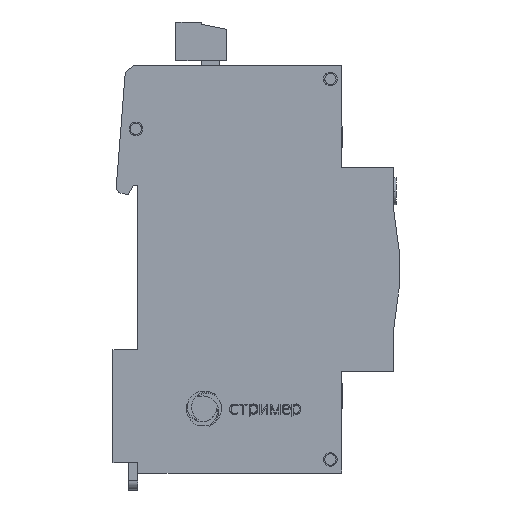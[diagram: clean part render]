
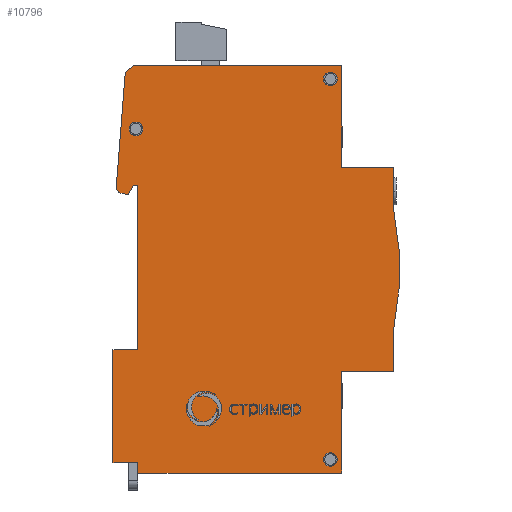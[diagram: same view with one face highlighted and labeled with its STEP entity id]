
A CAD part, front view. The second image highlights one B-rep face of the part: STEP entity #10796.
In plain terms, the highlighted planar face has unit normal (0, -1, 0).
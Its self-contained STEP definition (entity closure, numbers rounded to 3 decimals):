
#9196=CARTESIAN_POINT('',(-14.5,-13.5,-42.75));
#9197=VERTEX_POINT('',#9196);
#9204=CARTESIAN_POINT('',(-20.,-13.5,-42.75));
#9205=VERTEX_POINT('',#9204);
#9206=CARTESIAN_POINT('',(-20.,-13.5,-42.75));
#9207=DIRECTION('',(1.,0.,-0.));
#9208=VECTOR('',#9207,5.5);
#9209=LINE('',#9206,#9208);
#9210=EDGE_CURVE('',#9205,#9197,#9209,.T.);
#9414=CARTESIAN_POINT('',(-14.5,-13.5,-45.));
#9415=VERTEX_POINT('',#9414);
#9416=CARTESIAN_POINT('',(30.5,-13.5,-45.));
#9417=VERTEX_POINT('',#9416);
#9418=CARTESIAN_POINT('',(-14.5,-13.5,-45.));
#9419=DIRECTION('',(1.,0.,-0.));
#9420=VECTOR('',#9419,45.);
#9421=LINE('',#9418,#9420);
#9422=EDGE_CURVE('',#9415,#9417,#9421,.T.);
#9541=CARTESIAN_POINT('',(-14.5,-13.5,-17.75));
#9542=VERTEX_POINT('',#9541);
#9549=CARTESIAN_POINT('',(-14.5,-13.5,18.5));
#9550=VERTEX_POINT('',#9549);
#9551=CARTESIAN_POINT('',(-14.5,-13.5,18.5));
#9552=DIRECTION('',(0.,0.,-1.));
#9553=VECTOR('',#9552,36.25);
#9554=LINE('',#9551,#9553);
#9555=EDGE_CURVE('',#9550,#9542,#9554,.T.);
#9572=CARTESIAN_POINT('',(-14.5,-13.5,-42.75));
#9573=DIRECTION('',(0.,0.,-1.));
#9574=VECTOR('',#9573,2.25);
#9575=LINE('',#9572,#9574);
#9576=EDGE_CURVE('',#9197,#9415,#9575,.T.);
#9597=CARTESIAN_POINT('',(-17.29,-13.5,43.498));
#9598=VERTEX_POINT('',#9597);
#9605=CARTESIAN_POINT('',(-15.5,-13.5,45.));
#9606=VERTEX_POINT('',#9605);
#9607=CARTESIAN_POINT('',(-15.5,-13.5,45.));
#9608=DIRECTION('',(-0.766,0.,-0.643));
#9609=VECTOR('',#9608,2.337);
#9610=LINE('',#9607,#9609);
#9611=EDGE_CURVE('',#9606,#9598,#9610,.T.);
#9635=CARTESIAN_POINT('',(-19.273,-13.5,18.306));
#9636=VERTEX_POINT('',#9635);
#9643=CARTESIAN_POINT('',(-17.29,-13.5,43.498));
#9644=DIRECTION('',(-0.078,0.,-0.997));
#9645=VECTOR('',#9644,25.27);
#9646=LINE('',#9643,#9645);
#9647=EDGE_CURVE('',#9598,#9636,#9646,.T.);
#9667=CARTESIAN_POINT('',(-17.999,-13.5,16.704));
#9668=VERTEX_POINT('',#9667);
#9675=CARTESIAN_POINT('',(-17.777,-13.5,18.188));
#9676=DIRECTION('',(0.,-1.,0.));
#9677=DIRECTION('',(0.,0.,1.));
#9678=AXIS2_PLACEMENT_3D('',#9675,#9676,#9677);
#9679=CIRCLE('',#9678,1.5);
#9680=EDGE_CURVE('',#9636,#9668,#9679,.T.);
#9699=CARTESIAN_POINT('',(-16.632,-13.5,16.5));
#9700=VERTEX_POINT('',#9699);
#9707=CARTESIAN_POINT('',(-17.999,-13.5,16.704));
#9708=DIRECTION('',(0.989,0.,-0.148));
#9709=VECTOR('',#9708,1.383);
#9710=LINE('',#9707,#9709);
#9711=EDGE_CURVE('',#9668,#9700,#9710,.T.);
#9730=CARTESIAN_POINT('',(-15.5,-13.5,18.5));
#9731=VERTEX_POINT('',#9730);
#9738=CARTESIAN_POINT('',(-16.632,-13.5,16.5));
#9739=DIRECTION('',(0.492,0.,0.87));
#9740=VECTOR('',#9739,2.298);
#9741=LINE('',#9738,#9740);
#9742=EDGE_CURVE('',#9700,#9731,#9741,.T.);
#9920=CARTESIAN_POINT('',(-15.5,-13.5,18.5));
#9921=DIRECTION('',(1.,0.,0.));
#9922=VECTOR('',#9921,1.);
#9923=LINE('',#9920,#9922);
#9924=EDGE_CURVE('',#9731,#9550,#9923,.T.);
#10024=CARTESIAN_POINT('',(30.5,-13.5,-22.5));
#10025=VERTEX_POINT('',#10024);
#10026=CARTESIAN_POINT('',(30.5,-13.5,-45.));
#10027=DIRECTION('',(0.,0.,1.));
#10028=VECTOR('',#10027,22.5);
#10029=LINE('',#10026,#10028);
#10030=EDGE_CURVE('',#9417,#10025,#10029,.T.);
#10055=CARTESIAN_POINT('',(42.,-13.5,-22.5));
#10056=VERTEX_POINT('',#10055);
#10057=CARTESIAN_POINT('',(30.5,-13.5,-22.5));
#10058=DIRECTION('',(1.,0.,-0.));
#10059=VECTOR('',#10058,11.5);
#10060=LINE('',#10057,#10059);
#10061=EDGE_CURVE('',#10025,#10056,#10060,.T.);
#10086=CARTESIAN_POINT('',(42.,-13.5,-13.));
#10087=VERTEX_POINT('',#10086);
#10088=CARTESIAN_POINT('',(42.,-13.5,-22.5));
#10089=DIRECTION('',(0.,0.,1.));
#10090=VECTOR('',#10089,9.5);
#10091=LINE('',#10088,#10090);
#10092=EDGE_CURVE('',#10056,#10087,#10091,.T.);
#10117=CARTESIAN_POINT('',(42.,-13.5,13.));
#10118=VERTEX_POINT('',#10117);
#10119=CARTESIAN_POINT('',(-21.707,-13.5,0.));
#10120=DIRECTION('',(0.,-1.,0.));
#10121=DIRECTION('',(0.,0.,1.));
#10122=AXIS2_PLACEMENT_3D('',#10119,#10120,#10121);
#10123=CIRCLE('',#10122,65.02);
#10124=EDGE_CURVE('',#10087,#10118,#10123,.T.);
#10150=CARTESIAN_POINT('',(42.,-13.5,22.5));
#10151=VERTEX_POINT('',#10150);
#10152=CARTESIAN_POINT('',(42.,-13.5,13.));
#10153=DIRECTION('',(-0.,0.,1.));
#10154=VECTOR('',#10153,9.5);
#10155=LINE('',#10152,#10154);
#10156=EDGE_CURVE('',#10118,#10151,#10155,.T.);
#10181=CARTESIAN_POINT('',(30.5,-13.5,22.5));
#10182=VERTEX_POINT('',#10181);
#10183=CARTESIAN_POINT('',(42.,-13.5,22.5));
#10184=DIRECTION('',(-1.,0.,0.));
#10185=VECTOR('',#10184,11.5);
#10186=LINE('',#10183,#10185);
#10187=EDGE_CURVE('',#10151,#10182,#10186,.T.);
#10272=CARTESIAN_POINT('',(30.5,-13.5,45.));
#10273=VERTEX_POINT('',#10272);
#10274=CARTESIAN_POINT('',(30.5,-13.5,22.5));
#10275=DIRECTION('',(0.,0.,1.));
#10276=VECTOR('',#10275,22.5);
#10277=LINE('',#10274,#10276);
#10278=EDGE_CURVE('',#10182,#10273,#10277,.T.);
#10339=CARTESIAN_POINT('',(-14.94,-13.5,29.5));
#10340=VERTEX_POINT('',#10339);
#10347=CARTESIAN_POINT('',(-16.44,-13.5,31.));
#10348=VERTEX_POINT('',#10347);
#10349=CARTESIAN_POINT('',(-14.94,-13.5,31.));
#10350=DIRECTION('',(0.,-1.,0.));
#10351=DIRECTION('',(-1.,0.,0.));
#10352=AXIS2_PLACEMENT_3D('',#10349,#10350,#10351);
#10353=CIRCLE('',#10352,1.5);
#10354=EDGE_CURVE('',#10340,#10348,#10353,.T.);
#10413=CARTESIAN_POINT('',(28.,-13.5,40.5));
#10414=VERTEX_POINT('',#10413);
#10423=CARTESIAN_POINT('',(26.5,-13.5,42.));
#10424=VERTEX_POINT('',#10423);
#10425=CARTESIAN_POINT('',(28.,-13.5,42.));
#10426=DIRECTION('',(0.,-1.,0.));
#10427=DIRECTION('',(-1.,0.,0.));
#10428=AXIS2_PLACEMENT_3D('',#10425,#10426,#10427);
#10429=CIRCLE('',#10428,1.5);
#10430=EDGE_CURVE('',#10414,#10424,#10429,.T.);
#10455=CARTESIAN_POINT('',(28.,-13.5,-43.5));
#10456=VERTEX_POINT('',#10455);
#10465=CARTESIAN_POINT('',(26.5,-13.5,-42.));
#10466=VERTEX_POINT('',#10465);
#10467=CARTESIAN_POINT('',(28.,-13.5,-42.));
#10468=DIRECTION('',(0.,-1.,0.));
#10469=DIRECTION('',(-1.,0.,0.));
#10470=AXIS2_PLACEMENT_3D('',#10467,#10468,#10469);
#10471=CIRCLE('',#10470,1.5);
#10472=EDGE_CURVE('',#10456,#10466,#10471,.T.);
#10642=CARTESIAN_POINT('',(30.5,-13.5,45.));
#10643=DIRECTION('',(-1.,0.,0.));
#10644=VECTOR('',#10643,46.);
#10645=LINE('',#10642,#10644);
#10646=EDGE_CURVE('',#10273,#9606,#10645,.T.);
#10727=CARTESIAN_POINT('',(0.,-13.5,0.));
#10728=DIRECTION('',(0.,-1.,0.));
#10729=DIRECTION('',(0.,0.,1.));
#10730=AXIS2_PLACEMENT_3D('',#10727,#10728,#10729);
#10731=PLANE('',#10730);
#10732=ORIENTED_EDGE('',*,*,#9924,.T.);
#10733=ORIENTED_EDGE('',*,*,#9555,.T.);
#10734=CARTESIAN_POINT('',(-20.,-13.5,-17.75));
#10735=VERTEX_POINT('',#10734);
#10736=CARTESIAN_POINT('',(-20.,-13.5,-17.75));
#10737=DIRECTION('',(1.,0.,-0.));
#10738=VECTOR('',#10737,5.5);
#10739=LINE('',#10736,#10738);
#10740=EDGE_CURVE('',#10735,#9542,#10739,.T.);
#10741=ORIENTED_EDGE('',*,*,#10740,.F.);
#10742=CARTESIAN_POINT('',(-20.,-13.5,-17.75));
#10743=DIRECTION('',(0.,-0.,-1.));
#10744=VECTOR('',#10743,25.);
#10745=LINE('',#10742,#10744);
#10746=EDGE_CURVE('',#10735,#9205,#10745,.T.);
#10747=ORIENTED_EDGE('',*,*,#10746,.T.);
#10748=ORIENTED_EDGE('',*,*,#9210,.T.);
#10749=ORIENTED_EDGE('',*,*,#9576,.T.);
#10750=ORIENTED_EDGE('',*,*,#9422,.T.);
#10751=ORIENTED_EDGE('',*,*,#10030,.T.);
#10752=ORIENTED_EDGE('',*,*,#10061,.T.);
#10753=ORIENTED_EDGE('',*,*,#10092,.T.);
#10754=ORIENTED_EDGE('',*,*,#10124,.T.);
#10755=ORIENTED_EDGE('',*,*,#10156,.T.);
#10756=ORIENTED_EDGE('',*,*,#10187,.T.);
#10757=ORIENTED_EDGE('',*,*,#10278,.T.);
#10758=ORIENTED_EDGE('',*,*,#10646,.T.);
#10759=ORIENTED_EDGE('',*,*,#9611,.T.);
#10760=ORIENTED_EDGE('',*,*,#9647,.T.);
#10761=ORIENTED_EDGE('',*,*,#9680,.T.);
#10762=ORIENTED_EDGE('',*,*,#9711,.T.);
#10763=ORIENTED_EDGE('',*,*,#9742,.T.);
#10764=EDGE_LOOP('',(#10732,#10733,#10741,#10747,#10748,#10749,#10750,#10751,#10752,#10753,#10754,#10755,#10756,#10757,#10758,#10759,#10760,#10761,#10762,#10763));
#10765=FACE_BOUND('',#10764,.T.);
#10766=ORIENTED_EDGE('',*,*,#10472,.F.);
#10767=CARTESIAN_POINT('',(28.,-13.5,-42.));
#10768=DIRECTION('',(0.,-1.,0.));
#10769=DIRECTION('',(-1.,0.,0.));
#10770=AXIS2_PLACEMENT_3D('',#10767,#10768,#10769);
#10771=CIRCLE('',#10770,1.5);
#10772=EDGE_CURVE('',#10466,#10456,#10771,.T.);
#10773=ORIENTED_EDGE('',*,*,#10772,.F.);
#10774=EDGE_LOOP('',(#10766,#10773));
#10775=FACE_BOUND('',#10774,.T.);
#10776=ORIENTED_EDGE('',*,*,#10430,.F.);
#10777=CARTESIAN_POINT('',(28.,-13.5,42.));
#10778=DIRECTION('',(0.,-1.,0.));
#10779=DIRECTION('',(-1.,0.,0.));
#10780=AXIS2_PLACEMENT_3D('',#10777,#10778,#10779);
#10781=CIRCLE('',#10780,1.5);
#10782=EDGE_CURVE('',#10424,#10414,#10781,.T.);
#10783=ORIENTED_EDGE('',*,*,#10782,.F.);
#10784=EDGE_LOOP('',(#10776,#10783));
#10785=FACE_BOUND('',#10784,.T.);
#10786=ORIENTED_EDGE('',*,*,#10354,.F.);
#10787=CARTESIAN_POINT('',(-14.94,-13.5,31.));
#10788=DIRECTION('',(0.,-1.,0.));
#10789=DIRECTION('',(-1.,0.,0.));
#10790=AXIS2_PLACEMENT_3D('',#10787,#10788,#10789);
#10791=CIRCLE('',#10790,1.5);
#10792=EDGE_CURVE('',#10348,#10340,#10791,.T.);
#10793=ORIENTED_EDGE('',*,*,#10792,.F.);
#10794=EDGE_LOOP('',(#10786,#10793));
#10795=FACE_BOUND('',#10794,.T.);
#10796=ADVANCED_FACE('',(#10765,#10775,#10785,#10795),#10731,.T.);
